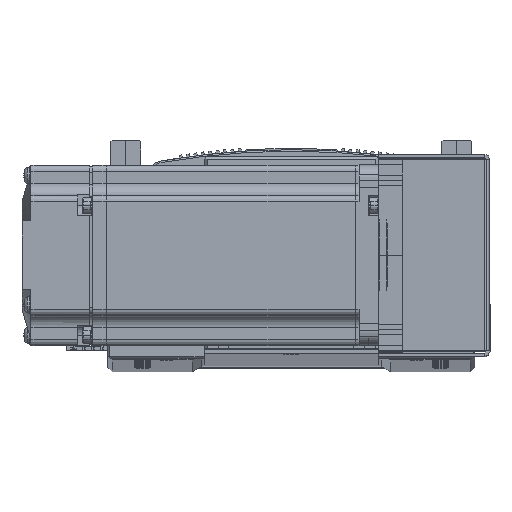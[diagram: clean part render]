
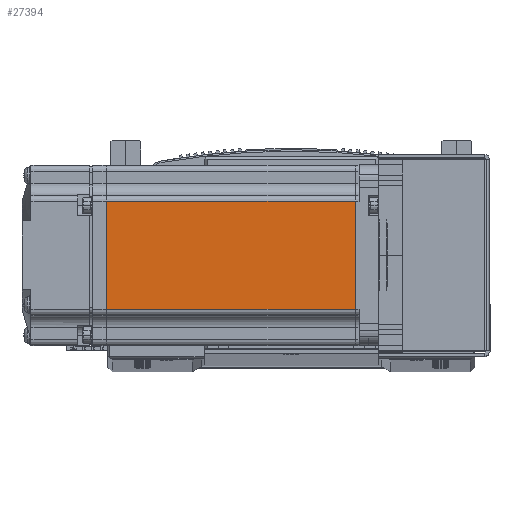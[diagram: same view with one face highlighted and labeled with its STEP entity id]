
A CAD part, top view. The second image highlights one B-rep face of the part: STEP entity #27394.
In plain terms, the highlighted planar face has unit normal (0, 0, 1) as drawn and (0, 1, 0) by its records, which use the part's own axes.
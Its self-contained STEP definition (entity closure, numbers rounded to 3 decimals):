
#4744 = ORIENTED_EDGE ( 'NONE', *, *, #54191, .F. ) ;
#4754 = ORIENTED_EDGE ( 'NONE', *, *, #54239, .T. ) ;
#4797 = ORIENTED_EDGE ( 'NONE', *, *, #54178, .T. ) ;
#4954 = ORIENTED_EDGE ( 'NONE', *, *, #54016, .T. ) ;
#16763 = LINE ( 'NONE', #29030, #16771 ) ;
#16771 = VECTOR ( 'NONE', #29036, 1000. ) ;
#17037 = VECTOR ( 'NONE', #34703, 1000. ) ;
#17040 = LINE ( 'NONE', #34541, #17051 ) ;
#17051 = VECTOR ( 'NONE', #34543, 1000. ) ;
#17093 = LINE ( 'NONE', #34533, #17123 ) ;
#17123 = VECTOR ( 'NONE', #34538, 1000. ) ;
#17128 = LINE ( 'NONE', #34707, #17037 ) ;
#27394 = ADVANCED_FACE ( 'NONE', ( #31491 ), #70872, .T. ) ;
#29030 = CARTESIAN_POINT ( 'NONE',  ( -6.5, 30., 18. ) ) ;
#29036 = DIRECTION ( 'NONE',  ( 1., 0., 0. ) ) ;
#30417 = AXIS2_PLACEMENT_3D ( 'NONE', #70878, #70865, #70837 ) ;
#31491 = FACE_OUTER_BOUND ( 'NONE', #53941, .T. ) ;
#34533 = CARTESIAN_POINT ( 'NONE',  ( -7.75, 30., 0. ) ) ;
#34538 = DIRECTION ( 'NONE',  ( 0., 0., 1. ) ) ;
#34541 = CARTESIAN_POINT ( 'NONE',  ( -90.45, 30., 0. ) ) ;
#34543 = DIRECTION ( 'NONE',  ( 0., 0., 1. ) ) ;
#34703 = DIRECTION ( 'NONE',  ( -1., 0., 0. ) ) ;
#34707 = CARTESIAN_POINT ( 'NONE',  ( -6.5, 30., -18. ) ) ;
#53941 = EDGE_LOOP ( 'NONE', ( #4744, #4754, #4797, #4954 ) ) ;
#54016 = EDGE_CURVE ( 'NONE', #82018, #82004, #16763, .T. ) ;
#54178 = EDGE_CURVE ( 'NONE', #82075, #82018, #17040, .T. ) ;
#54191 = EDGE_CURVE ( 'NONE', #82215, #82004, #17093, .T. ) ;
#54239 = EDGE_CURVE ( 'NONE', #82215, #82075, #17128, .T. ) ;
#70837 = DIRECTION ( 'NONE',  ( 0., 0., 1. ) ) ;
#70865 = DIRECTION ( 'NONE',  ( 0., 1., 0. ) ) ;
#70872 = PLANE ( 'NONE',  #30417 ) ;
#70878 = CARTESIAN_POINT ( 'NONE',  ( -6.5, 30., 25. ) ) ;
#82004 = VERTEX_POINT ( 'NONE', #84952 ) ;
#82018 = VERTEX_POINT ( 'NONE', #84947 ) ;
#82075 = VERTEX_POINT ( 'NONE', #84967 ) ;
#82215 = VERTEX_POINT ( 'NONE', #85003 ) ;
#84947 = CARTESIAN_POINT ( 'NONE',  ( -90.45, 30., 18. ) ) ;
#84952 = CARTESIAN_POINT ( 'NONE',  ( -7.75, 30., 18. ) ) ;
#84967 = CARTESIAN_POINT ( 'NONE',  ( -90.45, 30., -18. ) ) ;
#85003 = CARTESIAN_POINT ( 'NONE',  ( -7.75, 30., -18. ) ) ;
